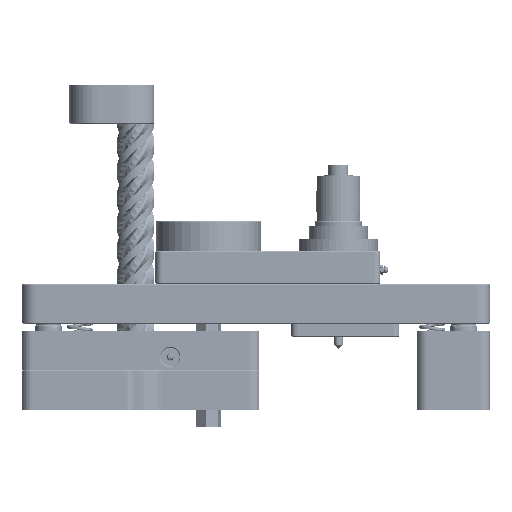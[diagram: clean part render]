
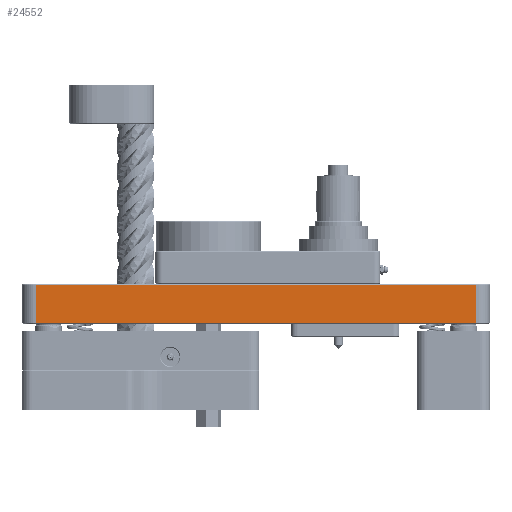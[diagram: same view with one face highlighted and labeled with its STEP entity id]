
A CAD part, front view. The second image highlights one B-rep face of the part: STEP entity #24552.
In plain terms, the highlighted planar face has unit normal (0, -1, 0) as drawn and (0, 1, 0) by its records, which use the part's own axes.
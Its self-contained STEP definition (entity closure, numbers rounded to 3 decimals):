
#1274=LINE('',#76596,#2164);
#1275=LINE('',#76599,#2165);
#1276=LINE('',#76601,#2166);
#1277=LINE('',#76603,#2167);
#2164=VECTOR('',#30281,1000.);
#2165=VECTOR('',#30282,1000.);
#2166=VECTOR('',#30283,1000.);
#2167=VECTOR('',#30284,1000.);
#2781=PLANE('',#26346);
#6964=ORIENTED_EDGE('',*,*,#9986,.T.);
#6965=ORIENTED_EDGE('',*,*,#9987,.T.);
#6966=ORIENTED_EDGE('',*,*,#9988,.T.);
#6967=ORIENTED_EDGE('',*,*,#9989,.T.);
#9986=EDGE_CURVE('',#11928,#11929,#1274,.F.);
#9987=EDGE_CURVE('',#11929,#11930,#1275,.F.);
#9988=EDGE_CURVE('',#11930,#11931,#1276,.T.);
#9989=EDGE_CURVE('',#11931,#11928,#1277,.T.);
#11928=VERTEX_POINT('',#76597);
#11929=VERTEX_POINT('',#76598);
#11930=VERTEX_POINT('',#76600);
#11931=VERTEX_POINT('',#76602);
#14412=EDGE_LOOP('',(#6964,#6965,#6966,#6967));
#16241=FACE_BOUND('',#14412,.T.);
#24552=ADVANCED_FACE('',(#16241),#2781,.F.);
#26346=AXIS2_PLACEMENT_3D('',#76595,#30279,#30280);
#30279=DIRECTION('',(0.,-1.,0.));
#30280=DIRECTION('',(1.,0.,0.));
#30281=DIRECTION('',(0.,0.,1.));
#30282=DIRECTION('',(1.,0.,0.));
#30283=DIRECTION('',(0.,0.,1.));
#30284=DIRECTION('',(1.,0.,0.));
#76595=CARTESIAN_POINT('',(231.775,50.8,24.638));
#76596=CARTESIAN_POINT('',(306.794,50.8,24.638));
#76597=CARTESIAN_POINT('',(306.794,50.8,36.544));
#76598=CARTESIAN_POINT('',(306.794,50.8,0.794));
#76599=CARTESIAN_POINT('',(231.775,50.8,0.794));
#76600=CARTESIAN_POINT('',(-105.799,50.8,0.794));
#76601=CARTESIAN_POINT('',(-105.799,50.8,24.638));
#76602=CARTESIAN_POINT('',(-105.799,50.8,36.544));
#76603=CARTESIAN_POINT('',(88.9,50.8,36.544));
